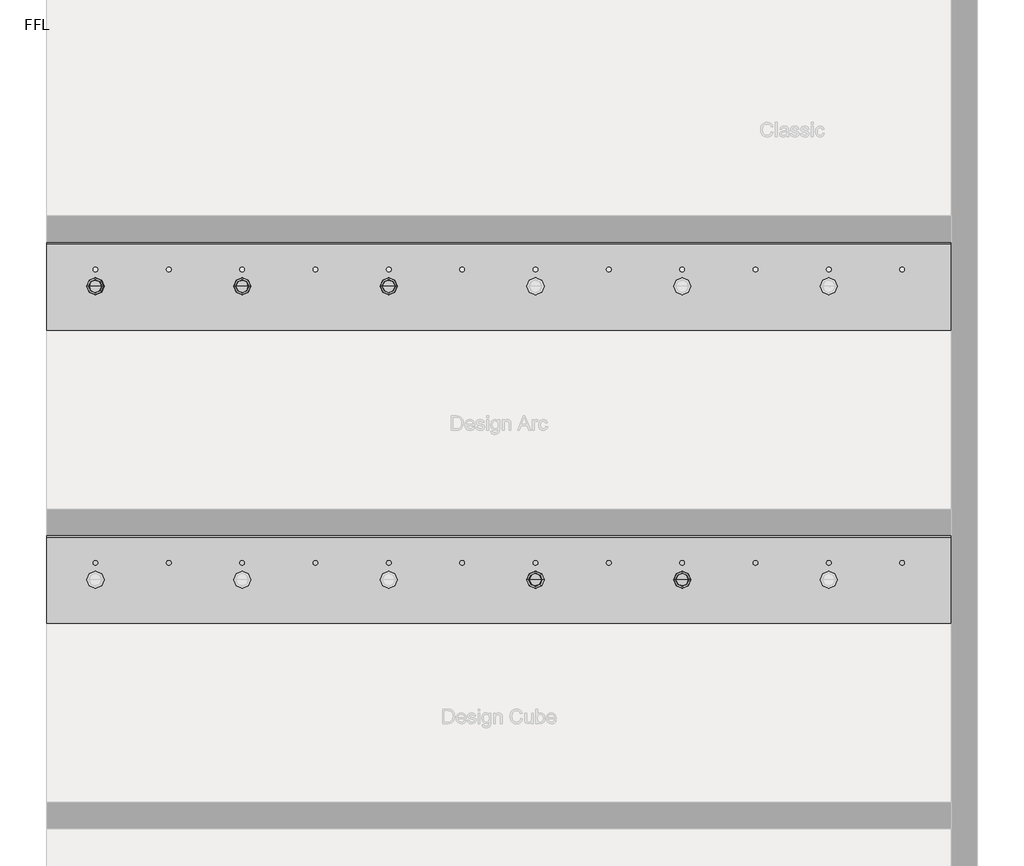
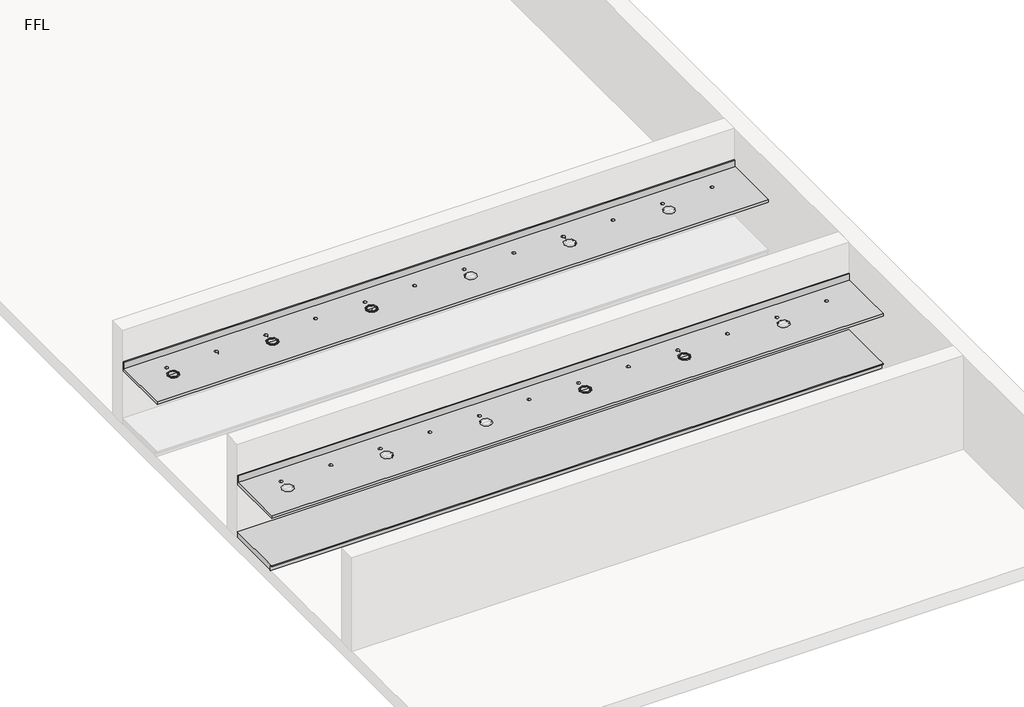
# One storey, part 2 of 5: 5 flow terminals, 3 furniture elements.
"""IFC4 building model written with IfcOpenShell, lengths in millimetres."""

from ifc_helpers import new_model, si_unit, frame, origin, place, context, project, spatial, polyline, circle_curve, transform, mapped, element, save
from ifc_brep_helpers import plane_surface, revolved_surface, advanced_brep
from components import bright_chrome_743c02cf, generic_plinth_900mm_08863006

model = new_model("IFC4")

# Units and contexts
model_context = context("Model", 3, world=origin())
ifc_project = project(units=[si_unit("LENGTHUNIT", "METRE", prefix="MILLI")], contexts=[model_context])

# Site, building, storey
site = spatial("IfcSite", under=ifc_project)
building = spatial("IfcBuilding", under=site)
storey = spatial("IfcBuildingStorey", under=building, Name="FFL", Elevation=0.0)

# Flow terminals
placement = place(None, origin())
bright_chrome_shape = bright_chrome_743c02cf(model_context)
element("IfcFlowTerminal", 1, ObjectType="z_PlumFixt_Zip Australia_Font : Bright Chrome", at=placement, inside=storey, context=model_context, shape_type="MappedRepresentation", body=[
    mapped(bright_chrome_shape, transform((-6470.7352929, 4381.2393304, 900.0), x_axis=(1.0, 0.0, 0.0), y_axis=(0.0, 1.0, 0.0), z_axis=(0.0, 0.0, 1.0))),
])
element("IfcFlowTerminal", 2, ObjectType="z_PlumFixt_Zip Australia_Font : Brushed Gold", at=placement, inside=storey, context=model_context, shape_type="MappedRepresentation", body=[
    mapped(bright_chrome_shape, transform((-4970.7352929, 4381.2393304, 900.0), x_axis=(1.0, 0.0, 0.0), y_axis=(0.0, 1.0, 0.0), z_axis=(0.0, 0.0, 1.0))),
])
element("IfcFlowTerminal", 3, ObjectType="z_PlumFixt_Zip Australia_Font : Brushed Rose Gold", at=placement, inside=storey, context=model_context, shape_type="MappedRepresentation", body=[
    mapped(bright_chrome_shape, transform((-3470.7352929, 4381.2393304, 900.0), x_axis=(1.0, 0.0, 0.0), y_axis=(0.0, 1.0, 0.0), z_axis=(0.0, 0.0, 1.0))),
])
element("IfcFlowTerminal", 4, ObjectType="z_PlumFixt_Zip Australia_Font : Gold", at=placement, inside=storey, context=model_context, shape_type="MappedRepresentation", body=[
    mapped(bright_chrome_shape, transform((-1970.7352929, 1381.2393304, 900.0), x_axis=(1.0, 0.0, 0.0), y_axis=(0.0, 1.0, 0.0), z_axis=(0.0, 0.0, 1.0))),
])
element("IfcFlowTerminal", 5, ObjectType="z_PlumFixt_Zip Australia_Font : Matte Black", at=placement, inside=storey, context=model_context, shape_type="MappedRepresentation", body=[
    mapped(bright_chrome_shape, transform((-470.7352929, 1381.2393304, 900.0), x_axis=(1.0, 0.0, 0.0), y_axis=(0.0, 1.0, 0.0), z_axis=(0.0, 0.0, 1.0))),
])

# Furniture
element("IfcFurniture", 6, ObjectType="Counter Top : 900mm Depth", at=placement, inside=storey, context=model_context, shape_type="AdvancedBrep", body=[
    advanced_brep(
    [(-6969.7352929, 3948.2393304, 900.0), (2280.2657919, 3948.2393304, 900.0), (2280.2657919, 4829.1893304, 900.0), (-6969.7352929, 4829.1893304, 900.0), (-6469.7352929, 4328.0393304, 900.0), (-6469.7352929, 4464.4393304, 900.0), (-6469.7352929, 4544.2393304, 900.0), (-6469.7352929, 4592.2393304, 900.0), (-5719.7352929, 4544.2393304, 900.0), (-5719.7352929, 4592.2393304, 900.0), (-4969.7352929, 4328.0393304, 900.0), (-4969.7352929, 4464.4393304, 900.0), (-4969.7352929, 4544.2393304, 900.0), (-4969.7352929, 4592.2393304, 900.0), (-4219.7352929, 4544.2393304, 900.0), (-4219.7352929, 4592.2393304, 900.0), (-3469.7352929, 4328.0393304, 900.0), (-3469.7352929, 4464.4393304, 900.0), (-3469.7352929, 4544.2393304, 900.0), (-3469.7352929, 4592.2393304, 900.0), (-2719.7352929, 4544.2393304, 900.0), (-2719.7352929, 4592.2393304, 900.0), (-1969.7352929, 4328.0393304, 900.0), (-1969.7352929, 4464.4393304, 900.0), (-1969.7352929, 4544.2393304, 900.0), (-1969.7352929, 4592.2393304, 900.0), (-1219.7352929, 4544.2393304, 900.0), (-1219.7352929, 4592.2393304, 900.0), (1780.2647071, 4544.2393304, 900.0), (1780.2647071, 4592.2393304, 900.0), (1030.2647071, 4328.0393304, 900.0), (1030.2647071, 4464.4393304, 900.0), (1030.2647071, 4544.2393304, 900.0), (1030.2647071, 4592.2393304, 900.0), (280.2647071, 4544.2393304, 900.0), (280.2647071, 4592.2393304, 900.0), (-469.7352929, 4328.0393304, 900.0), (-469.7352929, 4464.4393304, 900.0), (-469.7352929, 4544.2393304, 900.0), (-469.7352929, 4592.2393304, 900.0), (2280.2657919, 4848.2393304, 860.0), (2280.2657919, 3948.2393304, 860.0), (-6969.7352929, 3948.2393304, 860.0), (-6969.7352929, 4848.2393304, 860.0), (-6469.7352929, 4464.4393304, 860.0), (-6469.7352929, 4328.0393304, 860.0), (-6469.7352929, 4592.2393304, 860.0), (-6469.7352929, 4544.2393304, 860.0), (-5719.7352929, 4592.2393304, 860.0), (-5719.7352929, 4544.2393304, 860.0), (-4969.7352929, 4464.4393304, 860.0), (-4969.7352929, 4328.0393304, 860.0), (-4969.7352929, 4592.2393304, 860.0), (-4969.7352929, 4544.2393304, 860.0), (-4219.7352929, 4592.2393304, 860.0), (-4219.7352929, 4544.2393304, 860.0), (-3469.7352929, 4464.4393304, 860.0), (-3469.7352929, 4328.0393304, 860.0), (-3469.7352929, 4592.2393304, 860.0), (-3469.7352929, 4544.2393304, 860.0), (-2719.7352929, 4592.2393304, 860.0), (-2719.7352929, 4544.2393304, 860.0), (-1969.7352929, 4464.4393304, 860.0), (-1969.7352929, 4328.0393304, 860.0), (-1969.7352929, 4592.2393304, 860.0), (-1969.7352929, 4544.2393304, 860.0), (-1219.7352929, 4592.2393304, 860.0), (-1219.7352929, 4544.2393304, 860.0), (1780.2647071, 4592.2393304, 860.0), (1780.2647071, 4544.2393304, 860.0), (1030.2647071, 4464.4393304, 860.0), (1030.2647071, 4328.0393304, 860.0), (1030.2647071, 4592.2393304, 860.0), (1030.2647071, 4544.2393304, 860.0), (280.2647071, 4592.2393304, 860.0), (280.2647071, 4544.2393304, 860.0), (-469.7352929, 4464.4393304, 860.0), (-469.7352929, 4328.0393304, 860.0), (-469.7352929, 4592.2393304, 860.0), (-469.7352929, 4544.2393304, 860.0), (-6969.7352929, 4848.2393304, 1001.6), (2280.2657919, 4848.2393304, 1001.6), (-6969.7352929, 4829.1893304, 1001.6), (2280.2657919, 4829.1893304, 1001.6)],
    [
        (0, 1),
        (1, 2),
        (2, 3),
        (3, 0),
        (4, 5, circle_curve(frame((-6469.7352929, 4396.2393304, 900.0), z_axis=(0.0, 0.0, -1.0), x_axis=(0.0, -1.0, 0.0)), 68.2)),
        (5, 4, circle_curve(frame((-6469.7352929, 4396.2393304, 900.0), z_axis=(0.0, 0.0, -1.0), x_axis=(0.0, -1.0, 0.0)), 68.2)),
        (6, 7, circle_curve(frame((-6469.7352929, 4568.2393304, 900.0), z_axis=(0.0, 0.0, -1.0), x_axis=(0.0, -1.0, 0.0)), 24.0)),
        (7, 6, circle_curve(frame((-6469.7352929, 4568.2393304, 900.0), z_axis=(0.0, 0.0, -1.0), x_axis=(0.0, -1.0, 0.0)), 24.0)),
        (8, 9, circle_curve(frame((-5719.7352929, 4568.2393304, 900.0), z_axis=(0.0, 0.0, -1.0), x_axis=(0.0, -1.0, 0.0)), 24.0)),
        (9, 8, circle_curve(frame((-5719.7352929, 4568.2393304, 900.0), z_axis=(0.0, 0.0, -1.0), x_axis=(0.0, -1.0, 0.0)), 24.0)),
        (10, 11, circle_curve(frame((-4969.7352929, 4396.2393304, 900.0), z_axis=(0.0, 0.0, -1.0), x_axis=(0.0, -1.0, 0.0)), 68.2)),
        (11, 10, circle_curve(frame((-4969.7352929, 4396.2393304, 900.0), z_axis=(0.0, 0.0, -1.0), x_axis=(0.0, -1.0, 0.0)), 68.2)),
        (12, 13, circle_curve(frame((-4969.7352929, 4568.2393304, 900.0), z_axis=(0.0, 0.0, -1.0), x_axis=(0.0, -1.0, 0.0)), 24.0)),
        (13, 12, circle_curve(frame((-4969.7352929, 4568.2393304, 900.0), z_axis=(0.0, 0.0, -1.0), x_axis=(0.0, -1.0, 0.0)), 24.0)),
        (14, 15, circle_curve(frame((-4219.7352929, 4568.2393304, 900.0), z_axis=(0.0, 0.0, -1.0), x_axis=(0.0, -1.0, 0.0)), 24.0)),
        (15, 14, circle_curve(frame((-4219.7352929, 4568.2393304, 900.0), z_axis=(0.0, 0.0, -1.0), x_axis=(0.0, -1.0, 0.0)), 24.0)),
        (16, 17, circle_curve(frame((-3469.7352929, 4396.2393304, 900.0), z_axis=(0.0, 0.0, -1.0), x_axis=(0.0, -1.0, 0.0)), 68.2)),
        (17, 16, circle_curve(frame((-3469.7352929, 4396.2393304, 900.0), z_axis=(0.0, 0.0, -1.0), x_axis=(0.0, -1.0, 0.0)), 68.2)),
        (18, 19, circle_curve(frame((-3469.7352929, 4568.2393304, 900.0), z_axis=(0.0, 0.0, -1.0), x_axis=(0.0, -1.0, 0.0)), 24.0)),
        (19, 18, circle_curve(frame((-3469.7352929, 4568.2393304, 900.0), z_axis=(0.0, 0.0, -1.0), x_axis=(0.0, -1.0, 0.0)), 24.0)),
        (20, 21, circle_curve(frame((-2719.7352929, 4568.2393304, 900.0), z_axis=(0.0, 0.0, -1.0), x_axis=(0.0, -1.0, 0.0)), 24.0)),
        (21, 20, circle_curve(frame((-2719.7352929, 4568.2393304, 900.0), z_axis=(0.0, 0.0, -1.0), x_axis=(0.0, -1.0, 0.0)), 24.0)),
        (22, 23, circle_curve(frame((-1969.7352929, 4396.2393304, 900.0), z_axis=(0.0, 0.0, -1.0), x_axis=(0.0, -1.0, 0.0)), 68.2)),
        (23, 22, circle_curve(frame((-1969.7352929, 4396.2393304, 900.0), z_axis=(0.0, 0.0, -1.0), x_axis=(0.0, -1.0, 0.0)), 68.2)),
        (24, 25, circle_curve(frame((-1969.7352929, 4568.2393304, 900.0), z_axis=(0.0, 0.0, -1.0), x_axis=(0.0, -1.0, 0.0)), 24.0)),
        (25, 24, circle_curve(frame((-1969.7352929, 4568.2393304, 900.0), z_axis=(0.0, 0.0, -1.0), x_axis=(0.0, -1.0, 0.0)), 24.0)),
        (26, 27, circle_curve(frame((-1219.7352929, 4568.2393304, 900.0), z_axis=(0.0, 0.0, -1.0), x_axis=(0.0, -1.0, 0.0)), 24.0)),
        (27, 26, circle_curve(frame((-1219.7352929, 4568.2393304, 900.0), z_axis=(0.0, 0.0, -1.0), x_axis=(0.0, -1.0, 0.0)), 24.0)),
        (28, 29, circle_curve(frame((1780.2647071, 4568.2393304, 900.0), z_axis=(0.0, 0.0, -1.0), x_axis=(0.0, -1.0, 0.0)), 24.0)),
        (29, 28, circle_curve(frame((1780.2647071, 4568.2393304, 900.0), z_axis=(0.0, 0.0, -1.0), x_axis=(0.0, -1.0, 0.0)), 24.0)),
        (30, 31, circle_curve(frame((1030.2647071, 4396.2393304, 900.0), z_axis=(0.0, 0.0, -1.0), x_axis=(0.0, -1.0, 0.0)), 68.2)),
        (31, 30, circle_curve(frame((1030.2647071, 4396.2393304, 900.0), z_axis=(0.0, 0.0, -1.0), x_axis=(0.0, -1.0, 0.0)), 68.2)),
        (32, 33, circle_curve(frame((1030.2647071, 4568.2393304, 900.0), z_axis=(0.0, 0.0, -1.0), x_axis=(0.0, -1.0, 0.0)), 24.0)),
        (33, 32, circle_curve(frame((1030.2647071, 4568.2393304, 900.0), z_axis=(0.0, 0.0, -1.0), x_axis=(0.0, -1.0, 0.0)), 24.0)),
        (34, 35, circle_curve(frame((280.2647071, 4568.2393304, 900.0), z_axis=(0.0, 0.0, -1.0), x_axis=(0.0, -1.0, 0.0)), 24.0)),
        (35, 34, circle_curve(frame((280.2647071, 4568.2393304, 900.0), z_axis=(0.0, 0.0, -1.0), x_axis=(0.0, -1.0, 0.0)), 24.0)),
        (36, 37, circle_curve(frame((-469.7352929, 4396.2393304, 900.0), z_axis=(0.0, 0.0, -1.0), x_axis=(0.0, -1.0, 0.0)), 68.2)),
        (37, 36, circle_curve(frame((-469.7352929, 4396.2393304, 900.0), z_axis=(0.0, 0.0, -1.0), x_axis=(0.0, -1.0, 0.0)), 68.2)),
        (38, 39, circle_curve(frame((-469.7352929, 4568.2393304, 900.0), z_axis=(0.0, 0.0, -1.0), x_axis=(0.0, -1.0, 0.0)), 24.0)),
        (39, 38, circle_curve(frame((-469.7352929, 4568.2393304, 900.0), z_axis=(0.0, 0.0, -1.0), x_axis=(0.0, -1.0, 0.0)), 24.0)),
        (40, 41),
        (41, 42),
        (42, 43),
        (43, 40),
        (44, 45, circle_curve(frame((-6469.7352929, 4396.2393304, 860.0), z_axis=(0.0, 0.0, 1.0), x_axis=(0.0, -1.0, 0.0)), 68.2)),
        (45, 44, circle_curve(frame((-6469.7352929, 4396.2393304, 860.0), z_axis=(0.0, 0.0, 1.0), x_axis=(0.0, -1.0, 0.0)), 68.2)),
        (46, 47, circle_curve(frame((-6469.7352929, 4568.2393304, 860.0), z_axis=(0.0, 0.0, 1.0), x_axis=(0.0, -1.0, 0.0)), 24.0)),
        (47, 46, circle_curve(frame((-6469.7352929, 4568.2393304, 860.0), z_axis=(0.0, 0.0, 1.0), x_axis=(0.0, -1.0, 0.0)), 24.0)),
        (48, 49, circle_curve(frame((-5719.7352929, 4568.2393304, 860.0), z_axis=(0.0, 0.0, 1.0), x_axis=(0.0, -1.0, 0.0)), 24.0)),
        (49, 48, circle_curve(frame((-5719.7352929, 4568.2393304, 860.0), z_axis=(0.0, 0.0, 1.0), x_axis=(0.0, -1.0, 0.0)), 24.0)),
        (50, 51, circle_curve(frame((-4969.7352929, 4396.2393304, 860.0), z_axis=(0.0, 0.0, 1.0), x_axis=(0.0, -1.0, 0.0)), 68.2)),
        (51, 50, circle_curve(frame((-4969.7352929, 4396.2393304, 860.0), z_axis=(0.0, 0.0, 1.0), x_axis=(0.0, -1.0, 0.0)), 68.2)),
        (52, 53, circle_curve(frame((-4969.7352929, 4568.2393304, 860.0), z_axis=(0.0, 0.0, 1.0), x_axis=(0.0, -1.0, 0.0)), 24.0)),
        (53, 52, circle_curve(frame((-4969.7352929, 4568.2393304, 860.0), z_axis=(0.0, 0.0, 1.0), x_axis=(0.0, -1.0, 0.0)), 24.0)),
        (54, 55, circle_curve(frame((-4219.7352929, 4568.2393304, 860.0), z_axis=(0.0, 0.0, 1.0), x_axis=(0.0, -1.0, 0.0)), 24.0)),
        (55, 54, circle_curve(frame((-4219.7352929, 4568.2393304, 860.0), z_axis=(0.0, 0.0, 1.0), x_axis=(0.0, -1.0, 0.0)), 24.0)),
        (56, 57, circle_curve(frame((-3469.7352929, 4396.2393304, 860.0), z_axis=(0.0, 0.0, 1.0), x_axis=(0.0, -1.0, 0.0)), 68.2)),
        (57, 56, circle_curve(frame((-3469.7352929, 4396.2393304, 860.0), z_axis=(0.0, 0.0, 1.0), x_axis=(0.0, -1.0, 0.0)), 68.2)),
        (58, 59, circle_curve(frame((-3469.7352929, 4568.2393304, 860.0), z_axis=(0.0, 0.0, 1.0), x_axis=(0.0, -1.0, 0.0)), 24.0)),
        (59, 58, circle_curve(frame((-3469.7352929, 4568.2393304, 860.0), z_axis=(0.0, 0.0, 1.0), x_axis=(0.0, -1.0, 0.0)), 24.0)),
        (60, 61, circle_curve(frame((-2719.7352929, 4568.2393304, 860.0), z_axis=(0.0, 0.0, 1.0), x_axis=(0.0, -1.0, 0.0)), 24.0)),
        (61, 60, circle_curve(frame((-2719.7352929, 4568.2393304, 860.0), z_axis=(0.0, 0.0, 1.0), x_axis=(0.0, -1.0, 0.0)), 24.0)),
        (62, 63, circle_curve(frame((-1969.7352929, 4396.2393304, 860.0), z_axis=(0.0, 0.0, 1.0), x_axis=(0.0, -1.0, 0.0)), 68.2)),
        (63, 62, circle_curve(frame((-1969.7352929, 4396.2393304, 860.0), z_axis=(0.0, 0.0, 1.0), x_axis=(0.0, -1.0, 0.0)), 68.2)),
        (64, 65, circle_curve(frame((-1969.7352929, 4568.2393304, 860.0), z_axis=(0.0, 0.0, 1.0), x_axis=(0.0, -1.0, 0.0)), 24.0)),
        (65, 64, circle_curve(frame((-1969.7352929, 4568.2393304, 860.0), z_axis=(0.0, 0.0, 1.0), x_axis=(0.0, -1.0, 0.0)), 24.0)),
        (66, 67, circle_curve(frame((-1219.7352929, 4568.2393304, 860.0), z_axis=(0.0, 0.0, 1.0), x_axis=(0.0, -1.0, 0.0)), 24.0)),
        (67, 66, circle_curve(frame((-1219.7352929, 4568.2393304, 860.0), z_axis=(0.0, 0.0, 1.0), x_axis=(0.0, -1.0, 0.0)), 24.0)),
        (68, 69, circle_curve(frame((1780.2647071, 4568.2393304, 860.0), z_axis=(0.0, 0.0, 1.0), x_axis=(0.0, -1.0, 0.0)), 24.0)),
        (69, 68, circle_curve(frame((1780.2647071, 4568.2393304, 860.0), z_axis=(0.0, 0.0, 1.0), x_axis=(0.0, -1.0, 0.0)), 24.0)),
        (70, 71, circle_curve(frame((1030.2647071, 4396.2393304, 860.0), z_axis=(0.0, 0.0, 1.0), x_axis=(0.0, -1.0, 0.0)), 68.2)),
        (71, 70, circle_curve(frame((1030.2647071, 4396.2393304, 860.0), z_axis=(0.0, 0.0, 1.0), x_axis=(0.0, -1.0, 0.0)), 68.2)),
        (72, 73, circle_curve(frame((1030.2647071, 4568.2393304, 860.0), z_axis=(0.0, 0.0, 1.0), x_axis=(0.0, -1.0, 0.0)), 24.0)),
        (73, 72, circle_curve(frame((1030.2647071, 4568.2393304, 860.0), z_axis=(0.0, 0.0, 1.0), x_axis=(0.0, -1.0, 0.0)), 24.0)),
        (74, 75, circle_curve(frame((280.2647071, 4568.2393304, 860.0), z_axis=(0.0, 0.0, 1.0), x_axis=(0.0, -1.0, 0.0)), 24.0)),
        (75, 74, circle_curve(frame((280.2647071, 4568.2393304, 860.0), z_axis=(0.0, 0.0, 1.0), x_axis=(0.0, -1.0, 0.0)), 24.0)),
        (76, 77, circle_curve(frame((-469.7352929, 4396.2393304, 860.0), z_axis=(0.0, 0.0, 1.0), x_axis=(0.0, -1.0, 0.0)), 68.2)),
        (77, 76, circle_curve(frame((-469.7352929, 4396.2393304, 860.0), z_axis=(0.0, 0.0, 1.0), x_axis=(0.0, -1.0, 0.0)), 68.2)),
        (78, 79, circle_curve(frame((-469.7352929, 4568.2393304, 860.0), z_axis=(0.0, 0.0, 1.0), x_axis=(0.0, -1.0, 0.0)), 24.0)),
        (79, 78, circle_curve(frame((-469.7352929, 4568.2393304, 860.0), z_axis=(0.0, 0.0, 1.0), x_axis=(0.0, -1.0, 0.0)), 24.0)),
        (43, 80),
        (80, 81),
        (81, 40),
        (3, 82),
        (82, 80),
        (42, 0),
        (41, 1),
        (81, 83),
        (83, 2),
        (82, 83),
        (44, 5),
        (4, 45),
        (46, 7),
        (6, 47),
        (48, 9),
        (8, 49),
        (50, 11),
        (10, 51),
        (52, 13),
        (12, 53),
        (54, 15),
        (14, 55),
        (56, 17),
        (16, 57),
        (58, 19),
        (18, 59),
        (60, 21),
        (20, 61),
        (62, 23),
        (22, 63),
        (64, 25),
        (24, 65),
        (66, 27),
        (26, 67),
        (68, 29),
        (28, 69),
        (70, 31),
        (30, 71),
        (72, 33),
        (32, 73),
        (74, 35),
        (34, 75),
        (76, 37),
        (36, 77),
        (78, 39),
        (38, 79),
    ],
    [
        plane_surface(frame((-6969.7352929, 4848.2393304, 900.0), z_axis=(0.0, 0.0, 1.0), x_axis=(-1.0, 0.0, 0.0))),
        plane_surface(frame((-6969.7352929, 4848.2393304, 860.0), z_axis=(0.0, 0.0, -1.0), x_axis=(1.0, 0.0, 0.0))),
        plane_surface(frame((2280.2657919, 4848.2393304, 900.0), z_axis=(0.0, 1.0, 0.0), x_axis=(0.0, 0.0, -1.0))),
        plane_surface(frame((-6969.7352929, 4848.2393304, 900.0), z_axis=(-1.0, 0.0, 0.0), x_axis=(0.0, 0.0, -1.0))),
        plane_surface(frame((-6969.7352929, 3948.2393304, 900.0), z_axis=(0.0, -1.0, 0.0), x_axis=(0.0, 0.0, -1.0))),
        plane_surface(frame((2280.2657919, 3948.2393304, 900.0), z_axis=(1.0, 0.0, 0.0), x_axis=(0.0, 0.0, -1.0))),
        plane_surface(frame((-6969.7352929, 4848.2393304, 1001.6), z_axis=(0.0, 0.0, 1.0), x_axis=(0.0, -1.0, 0.0))),
        plane_surface(frame((-6969.7352929, 4829.1893304, 1001.6), z_axis=(0.0, -1.0, 0.0), x_axis=(0.0, 0.0, -1.0))),
        revolved_surface(polyline([(-6469.7352929, 4328.0393304, 900.0), (-6469.7352929, 4328.0393304, 860.0)]), (-6469.7352929, 4396.2393304, 700.0), (0.0, 0.0, 1.0)),
        revolved_surface(polyline([(-6469.7352929, 4544.2393304, 900.0), (-6469.7352929, 4544.2393304, 860.0)]), (-6469.7352929, 4568.2393304, 700.0), (0.0, 0.0, 1.0)),
        revolved_surface(polyline([(-5719.7352929, 4544.2393304, 900.0), (-5719.7352929, 4544.2393304, 860.0)]), (-5719.7352929, 4568.2393304, 700.0), (0.0, 0.0, 1.0)),
        revolved_surface(polyline([(-4969.7352929, 4328.0393304, 900.0), (-4969.7352929, 4328.0393304, 860.0)]), (-4969.7352929, 4396.2393304, 700.0), (0.0, 0.0, 1.0)),
        revolved_surface(polyline([(-4969.7352929, 4544.2393304, 900.0), (-4969.7352929, 4544.2393304, 860.0)]), (-4969.7352929, 4568.2393304, 700.0), (0.0, 0.0, 1.0)),
        revolved_surface(polyline([(-4219.7352929, 4544.2393304, 900.0), (-4219.7352929, 4544.2393304, 860.0)]), (-4219.7352929, 4568.2393304, 700.0), (0.0, 0.0, 1.0)),
        revolved_surface(polyline([(-3469.7352929, 4328.0393304, 900.0), (-3469.7352929, 4328.0393304, 860.0)]), (-3469.7352929, 4396.2393304, 700.0), (0.0, 0.0, 1.0)),
        revolved_surface(polyline([(-3469.7352929, 4544.2393304, 900.0), (-3469.7352929, 4544.2393304, 860.0)]), (-3469.7352929, 4568.2393304, 700.0), (0.0, 0.0, 1.0)),
        revolved_surface(polyline([(-2719.7352929, 4544.2393304, 900.0), (-2719.7352929, 4544.2393304, 860.0)]), (-2719.7352929, 4568.2393304, 700.0), (0.0, 0.0, 1.0)),
        revolved_surface(polyline([(-1969.7352929, 4328.0393304, 900.0), (-1969.7352929, 4328.0393304, 860.0)]), (-1969.7352929, 4396.2393304, 700.0), (0.0, 0.0, 1.0)),
        revolved_surface(polyline([(-1969.7352929, 4544.2393304, 900.0), (-1969.7352929, 4544.2393304, 860.0)]), (-1969.7352929, 4568.2393304, 700.0), (0.0, 0.0, 1.0)),
        revolved_surface(polyline([(-1219.7352929, 4544.2393304, 900.0), (-1219.7352929, 4544.2393304, 860.0)]), (-1219.7352929, 4568.2393304, 700.0), (0.0, 0.0, 1.0)),
        revolved_surface(polyline([(1780.2647071, 4544.2393304, 900.0), (1780.2647071, 4544.2393304, 860.0)]), (1780.2647071, 4568.2393304, 700.0), (0.0, 0.0, 1.0)),
        revolved_surface(polyline([(1030.2647071, 4328.0393304, 900.0), (1030.2647071, 4328.0393304, 860.0)]), (1030.2647071, 4396.2393304, 700.0), (0.0, 0.0, 1.0)),
        revolved_surface(polyline([(1030.2647071, 4544.2393304, 900.0), (1030.2647071, 4544.2393304, 860.0)]), (1030.2647071, 4568.2393304, 700.0), (0.0, 0.0, 1.0)),
        revolved_surface(polyline([(280.2647071, 4544.2393304, 900.0), (280.2647071, 4544.2393304, 860.0)]), (280.2647071, 4568.2393304, 700.0), (0.0, 0.0, 1.0)),
        revolved_surface(polyline([(-469.7352929, 4328.0393304, 900.0), (-469.7352929, 4328.0393304, 860.0)]), (-469.7352929, 4396.2393304, 700.0), (0.0, 0.0, 1.0)),
        revolved_surface(polyline([(-469.7352929, 4544.2393304, 900.0), (-469.7352929, 4544.2393304, 860.0)]), (-469.7352929, 4568.2393304, 700.0), (0.0, 0.0, 1.0)),
    ],
    [
        (0, [[1, 2, 3, 4], [5, 6], [7, 8], [9, 10], [11, 12], [13, 14], [15, 16], [17, 18], [19, 20], [21, 22], [23, 24], [25, 26], [27, 28], [29, 30], [31, 32], [33, 34], [35, 36], [37, 38], [39, 40]]),
        (1, [[41, 42, 43, 44], [45, 46], [47, 48], [49, 50], [51, 52], [53, 54], [55, 56], [57, 58], [59, 60], [61, 62], [63, 64], [65, 66], [67, 68], [69, 70], [71, 72], [73, 74], [75, 76], [77, 78], [79, 80]]),
        (2, [[-44, 81, 82, 83]]),
        (3, [[-4, 84, 85, -81, -43, 86]]),
        (4, [[-1, -86, -42, 87]]),
        (5, [[-2, -87, -41, -83, 88, 89]]),
        (6, [[-82, -85, 90, -88]]),
        (7, [[-3, -89, -90, -84]]),
        (8, [[91, -5, 92, -45]]),
        (8, [[-91, -46, -92, -6]]),
        (9, [[93, -7, 94, -47]]),
        (9, [[-93, -48, -94, -8]]),
        (10, [[95, -9, 96, -49]]),
        (10, [[-95, -50, -96, -10]]),
        (11, [[97, -11, 98, -51]]),
        (11, [[-97, -52, -98, -12]]),
        (12, [[99, -13, 100, -53]]),
        (12, [[-99, -54, -100, -14]]),
        (13, [[101, -15, 102, -55]]),
        (13, [[-101, -56, -102, -16]]),
        (14, [[103, -17, 104, -57]]),
        (14, [[-103, -58, -104, -18]]),
        (15, [[105, -19, 106, -59]]),
        (15, [[-105, -60, -106, -20]]),
        (16, [[107, -21, 108, -61]]),
        (16, [[-107, -62, -108, -22]]),
        (17, [[109, -23, 110, -63]]),
        (17, [[-109, -64, -110, -24]]),
        (18, [[111, -25, 112, -65]]),
        (18, [[-111, -66, -112, -26]]),
        (19, [[113, -27, 114, -67]]),
        (19, [[-113, -68, -114, -28]]),
        (20, [[115, -29, 116, -69]]),
        (20, [[-115, -70, -116, -30]]),
        (21, [[117, -31, 118, -71]]),
        (21, [[-117, -72, -118, -32]]),
        (22, [[119, -33, 120, -73]]),
        (22, [[-119, -74, -120, -34]]),
        (23, [[121, -35, 122, -75]]),
        (23, [[-121, -76, -122, -36]]),
        (24, [[123, -37, 124, -77]]),
        (24, [[-123, -78, -124, -38]]),
        (25, [[125, -39, 126, -79]]),
        (25, [[-125, -80, -126, -40]]),
    ],
),
])
element("IfcFurniture", 7, ObjectType="Counter Top : 900mm Depth", at=placement, inside=storey, context=model_context, shape_type="AdvancedBrep", body=[
    advanced_brep(
    [(-6969.7352929, 948.2393304, 900.0), (2280.2657919, 948.2393304, 900.0), (2280.2657919, 1829.1893304, 900.0), (-6969.7352929, 1829.1893304, 900.0), (-6469.7352929, 1328.0393304, 900.0), (-6469.7352929, 1464.4393304, 900.0), (-6469.7352929, 1544.2393304, 900.0), (-6469.7352929, 1592.2393304, 900.0), (-5719.7352929, 1544.2393304, 900.0), (-5719.7352929, 1592.2393304, 900.0), (-4969.7352929, 1328.0393304, 900.0), (-4969.7352929, 1464.4393304, 900.0), (-4969.7352929, 1544.2393304, 900.0), (-4969.7352929, 1592.2393304, 900.0), (-4219.7352929, 1544.2393304, 900.0), (-4219.7352929, 1592.2393304, 900.0), (-3469.7352929, 1328.0393304, 900.0), (-3469.7352929, 1464.4393304, 900.0), (-3469.7352929, 1544.2393304, 900.0), (-3469.7352929, 1592.2393304, 900.0), (-2719.7352929, 1544.2393304, 900.0), (-2719.7352929, 1592.2393304, 900.0), (-1969.7352929, 1328.0393304, 900.0), (-1969.7352929, 1464.4393304, 900.0), (-1969.7352929, 1544.2393304, 900.0), (-1969.7352929, 1592.2393304, 900.0), (-1219.7352929, 1544.2393304, 900.0), (-1219.7352929, 1592.2393304, 900.0), (-469.7352929, 1328.0393304, 900.0), (-469.7352929, 1464.4393304, 900.0), (-469.7352929, 1544.2393304, 900.0), (-469.7352929, 1592.2393304, 900.0), (280.2647071, 1544.2393304, 900.0), (280.2647071, 1592.2393304, 900.0), (1030.2647071, 1328.0393304, 900.0), (1030.2647071, 1464.4393304, 900.0), (1030.2647071, 1544.2393304, 900.0), (1030.2647071, 1592.2393304, 900.0), (1780.2647071, 1544.2393304, 900.0), (1780.2647071, 1592.2393304, 900.0), (2280.2657919, 1848.2393304, 860.0), (2280.2657919, 948.2393304, 860.0), (-6969.7352929, 948.2393304, 860.0), (-6969.7352929, 1848.2393304, 860.0), (-6469.7352929, 1464.4393304, 860.0), (-6469.7352929, 1328.0393304, 860.0), (-6469.7352929, 1592.2393304, 860.0), (-6469.7352929, 1544.2393304, 860.0), (-5719.7352929, 1592.2393304, 860.0), (-5719.7352929, 1544.2393304, 860.0), (-4969.7352929, 1464.4393304, 860.0), (-4969.7352929, 1328.0393304, 860.0), (-4969.7352929, 1592.2393304, 860.0), (-4969.7352929, 1544.2393304, 860.0), (-4219.7352929, 1592.2393304, 860.0), (-4219.7352929, 1544.2393304, 860.0), (-3469.7352929, 1464.4393304, 860.0), (-3469.7352929, 1328.0393304, 860.0), (-3469.7352929, 1592.2393304, 860.0), (-3469.7352929, 1544.2393304, 860.0), (-2719.7352929, 1592.2393304, 860.0), (-2719.7352929, 1544.2393304, 860.0), (-1969.7352929, 1464.4393304, 860.0), (-1969.7352929, 1328.0393304, 860.0), (-1969.7352929, 1592.2393304, 860.0), (-1969.7352929, 1544.2393304, 860.0), (-1219.7352929, 1592.2393304, 860.0), (-1219.7352929, 1544.2393304, 860.0), (-469.7352929, 1464.4393304, 860.0), (-469.7352929, 1328.0393304, 860.0), (-469.7352929, 1592.2393304, 860.0), (-469.7352929, 1544.2393304, 860.0), (280.2647071, 1592.2393304, 860.0), (280.2647071, 1544.2393304, 860.0), (1030.2647071, 1464.4393304, 860.0), (1030.2647071, 1328.0393304, 860.0), (1030.2647071, 1592.2393304, 860.0), (1030.2647071, 1544.2393304, 860.0), (1780.2647071, 1592.2393304, 860.0), (1780.2647071, 1544.2393304, 860.0), (-6969.7352929, 1848.2393304, 1001.6), (2280.2657919, 1848.2393304, 1001.6), (-6969.7352929, 1829.1893304, 1001.6), (2280.2657919, 1829.1893304, 1001.6)],
    [
        (0, 1),
        (1, 2),
        (2, 3),
        (3, 0),
        (4, 5, circle_curve(frame((-6469.7352929, 1396.2393304, 900.0), z_axis=(0.0, 0.0, -1.0), x_axis=(0.0, -1.0, 0.0)), 68.2)),
        (5, 4, circle_curve(frame((-6469.7352929, 1396.2393304, 900.0), z_axis=(0.0, 0.0, -1.0), x_axis=(0.0, -1.0, 0.0)), 68.2)),
        (6, 7, circle_curve(frame((-6469.7352929, 1568.2393304, 900.0), z_axis=(0.0, 0.0, -1.0), x_axis=(0.0, -1.0, 0.0)), 24.0)),
        (7, 6, circle_curve(frame((-6469.7352929, 1568.2393304, 900.0), z_axis=(0.0, 0.0, -1.0), x_axis=(0.0, -1.0, 0.0)), 24.0)),
        (8, 9, circle_curve(frame((-5719.7352929, 1568.2393304, 900.0), z_axis=(0.0, 0.0, -1.0), x_axis=(0.0, -1.0, 0.0)), 24.0)),
        (9, 8, circle_curve(frame((-5719.7352929, 1568.2393304, 900.0), z_axis=(0.0, 0.0, -1.0), x_axis=(0.0, -1.0, 0.0)), 24.0)),
        (10, 11, circle_curve(frame((-4969.7352929, 1396.2393304, 900.0), z_axis=(0.0, 0.0, -1.0), x_axis=(0.0, -1.0, 0.0)), 68.2)),
        (11, 10, circle_curve(frame((-4969.7352929, 1396.2393304, 900.0), z_axis=(0.0, 0.0, -1.0), x_axis=(0.0, -1.0, 0.0)), 68.2)),
        (12, 13, circle_curve(frame((-4969.7352929, 1568.2393304, 900.0), z_axis=(0.0, 0.0, -1.0), x_axis=(0.0, -1.0, 0.0)), 24.0)),
        (13, 12, circle_curve(frame((-4969.7352929, 1568.2393304, 900.0), z_axis=(0.0, 0.0, -1.0), x_axis=(0.0, -1.0, 0.0)), 24.0)),
        (14, 15, circle_curve(frame((-4219.7352929, 1568.2393304, 900.0), z_axis=(0.0, 0.0, -1.0), x_axis=(0.0, -1.0, 0.0)), 24.0)),
        (15, 14, circle_curve(frame((-4219.7352929, 1568.2393304, 900.0), z_axis=(0.0, 0.0, -1.0), x_axis=(0.0, -1.0, 0.0)), 24.0)),
        (16, 17, circle_curve(frame((-3469.7352929, 1396.2393304, 900.0), z_axis=(0.0, 0.0, -1.0), x_axis=(0.0, -1.0, 0.0)), 68.2)),
        (17, 16, circle_curve(frame((-3469.7352929, 1396.2393304, 900.0), z_axis=(0.0, 0.0, -1.0), x_axis=(0.0, -1.0, 0.0)), 68.2)),
        (18, 19, circle_curve(frame((-3469.7352929, 1568.2393304, 900.0), z_axis=(0.0, 0.0, -1.0), x_axis=(0.0, -1.0, 0.0)), 24.0)),
        (19, 18, circle_curve(frame((-3469.7352929, 1568.2393304, 900.0), z_axis=(0.0, 0.0, -1.0), x_axis=(0.0, -1.0, 0.0)), 24.0)),
        (20, 21, circle_curve(frame((-2719.7352929, 1568.2393304, 900.0), z_axis=(0.0, 0.0, -1.0), x_axis=(0.0, -1.0, 0.0)), 24.0)),
        (21, 20, circle_curve(frame((-2719.7352929, 1568.2393304, 900.0), z_axis=(0.0, 0.0, -1.0), x_axis=(0.0, -1.0, 0.0)), 24.0)),
        (22, 23, circle_curve(frame((-1969.7352929, 1396.2393304, 900.0), z_axis=(0.0, 0.0, -1.0), x_axis=(0.0, -1.0, 0.0)), 68.2)),
        (23, 22, circle_curve(frame((-1969.7352929, 1396.2393304, 900.0), z_axis=(0.0, 0.0, -1.0), x_axis=(0.0, -1.0, 0.0)), 68.2)),
        (24, 25, circle_curve(frame((-1969.7352929, 1568.2393304, 900.0), z_axis=(0.0, 0.0, -1.0), x_axis=(0.0, -1.0, 0.0)), 24.0)),
        (25, 24, circle_curve(frame((-1969.7352929, 1568.2393304, 900.0), z_axis=(0.0, 0.0, -1.0), x_axis=(0.0, -1.0, 0.0)), 24.0)),
        (26, 27, circle_curve(frame((-1219.7352929, 1568.2393304, 900.0), z_axis=(0.0, 0.0, -1.0), x_axis=(0.0, -1.0, 0.0)), 24.0)),
        (27, 26, circle_curve(frame((-1219.7352929, 1568.2393304, 900.0), z_axis=(0.0, 0.0, -1.0), x_axis=(0.0, -1.0, 0.0)), 24.0)),
        (28, 29, circle_curve(frame((-469.7352929, 1396.2393304, 900.0), z_axis=(0.0, 0.0, -1.0), x_axis=(0.0, -1.0, 0.0)), 68.2)),
        (29, 28, circle_curve(frame((-469.7352929, 1396.2393304, 900.0), z_axis=(0.0, 0.0, -1.0), x_axis=(0.0, -1.0, 0.0)), 68.2)),
        (30, 31, circle_curve(frame((-469.7352929, 1568.2393304, 900.0), z_axis=(0.0, 0.0, -1.0), x_axis=(0.0, -1.0, 0.0)), 24.0)),
        (31, 30, circle_curve(frame((-469.7352929, 1568.2393304, 900.0), z_axis=(0.0, 0.0, -1.0), x_axis=(0.0, -1.0, 0.0)), 24.0)),
        (32, 33, circle_curve(frame((280.2647071, 1568.2393304, 900.0), z_axis=(0.0, 0.0, -1.0), x_axis=(0.0, -1.0, 0.0)), 24.0)),
        (33, 32, circle_curve(frame((280.2647071, 1568.2393304, 900.0), z_axis=(0.0, 0.0, -1.0), x_axis=(0.0, -1.0, 0.0)), 24.0)),
        (34, 35, circle_curve(frame((1030.2647071, 1396.2393304, 900.0), z_axis=(0.0, 0.0, -1.0), x_axis=(0.0, -1.0, 0.0)), 68.2)),
        (35, 34, circle_curve(frame((1030.2647071, 1396.2393304, 900.0), z_axis=(0.0, 0.0, -1.0), x_axis=(0.0, -1.0, 0.0)), 68.2)),
        (36, 37, circle_curve(frame((1030.2647071, 1568.2393304, 900.0), z_axis=(0.0, 0.0, -1.0), x_axis=(0.0, -1.0, 0.0)), 24.0)),
        (37, 36, circle_curve(frame((1030.2647071, 1568.2393304, 900.0), z_axis=(0.0, 0.0, -1.0), x_axis=(0.0, -1.0, 0.0)), 24.0)),
        (38, 39, circle_curve(frame((1780.2647071, 1568.2393304, 900.0), z_axis=(0.0, 0.0, -1.0), x_axis=(0.0, -1.0, 0.0)), 24.0)),
        (39, 38, circle_curve(frame((1780.2647071, 1568.2393304, 900.0), z_axis=(0.0, 0.0, -1.0), x_axis=(0.0, -1.0, 0.0)), 24.0)),
        (40, 41),
        (41, 42),
        (42, 43),
        (43, 40),
        (44, 45, circle_curve(frame((-6469.7352929, 1396.2393304, 860.0), z_axis=(0.0, 0.0, 1.0), x_axis=(0.0, -1.0, 0.0)), 68.2)),
        (45, 44, circle_curve(frame((-6469.7352929, 1396.2393304, 860.0), z_axis=(0.0, 0.0, 1.0), x_axis=(0.0, -1.0, 0.0)), 68.2)),
        (46, 47, circle_curve(frame((-6469.7352929, 1568.2393304, 860.0), z_axis=(0.0, 0.0, 1.0), x_axis=(0.0, -1.0, 0.0)), 24.0)),
        (47, 46, circle_curve(frame((-6469.7352929, 1568.2393304, 860.0), z_axis=(0.0, 0.0, 1.0), x_axis=(0.0, -1.0, 0.0)), 24.0)),
        (48, 49, circle_curve(frame((-5719.7352929, 1568.2393304, 860.0), z_axis=(0.0, 0.0, 1.0), x_axis=(0.0, -1.0, 0.0)), 24.0)),
        (49, 48, circle_curve(frame((-5719.7352929, 1568.2393304, 860.0), z_axis=(0.0, 0.0, 1.0), x_axis=(0.0, -1.0, 0.0)), 24.0)),
        (50, 51, circle_curve(frame((-4969.7352929, 1396.2393304, 860.0), z_axis=(0.0, 0.0, 1.0), x_axis=(0.0, -1.0, 0.0)), 68.2)),
        (51, 50, circle_curve(frame((-4969.7352929, 1396.2393304, 860.0), z_axis=(0.0, 0.0, 1.0), x_axis=(0.0, -1.0, 0.0)), 68.2)),
        (52, 53, circle_curve(frame((-4969.7352929, 1568.2393304, 860.0), z_axis=(0.0, 0.0, 1.0), x_axis=(0.0, -1.0, 0.0)), 24.0)),
        (53, 52, circle_curve(frame((-4969.7352929, 1568.2393304, 860.0), z_axis=(0.0, 0.0, 1.0), x_axis=(0.0, -1.0, 0.0)), 24.0)),
        (54, 55, circle_curve(frame((-4219.7352929, 1568.2393304, 860.0), z_axis=(0.0, 0.0, 1.0), x_axis=(0.0, -1.0, 0.0)), 24.0)),
        (55, 54, circle_curve(frame((-4219.7352929, 1568.2393304, 860.0), z_axis=(0.0, 0.0, 1.0), x_axis=(0.0, -1.0, 0.0)), 24.0)),
        (56, 57, circle_curve(frame((-3469.7352929, 1396.2393304, 860.0), z_axis=(0.0, 0.0, 1.0), x_axis=(0.0, -1.0, 0.0)), 68.2)),
        (57, 56, circle_curve(frame((-3469.7352929, 1396.2393304, 860.0), z_axis=(0.0, 0.0, 1.0), x_axis=(0.0, -1.0, 0.0)), 68.2)),
        (58, 59, circle_curve(frame((-3469.7352929, 1568.2393304, 860.0), z_axis=(0.0, 0.0, 1.0), x_axis=(0.0, -1.0, 0.0)), 24.0)),
        (59, 58, circle_curve(frame((-3469.7352929, 1568.2393304, 860.0), z_axis=(0.0, 0.0, 1.0), x_axis=(0.0, -1.0, 0.0)), 24.0)),
        (60, 61, circle_curve(frame((-2719.7352929, 1568.2393304, 860.0), z_axis=(0.0, 0.0, 1.0), x_axis=(0.0, -1.0, 0.0)), 24.0)),
        (61, 60, circle_curve(frame((-2719.7352929, 1568.2393304, 860.0), z_axis=(0.0, 0.0, 1.0), x_axis=(0.0, -1.0, 0.0)), 24.0)),
        (62, 63, circle_curve(frame((-1969.7352929, 1396.2393304, 860.0), z_axis=(0.0, 0.0, 1.0), x_axis=(0.0, -1.0, 0.0)), 68.2)),
        (63, 62, circle_curve(frame((-1969.7352929, 1396.2393304, 860.0), z_axis=(0.0, 0.0, 1.0), x_axis=(0.0, -1.0, 0.0)), 68.2)),
        (64, 65, circle_curve(frame((-1969.7352929, 1568.2393304, 860.0), z_axis=(0.0, 0.0, 1.0), x_axis=(0.0, -1.0, 0.0)), 24.0)),
        (65, 64, circle_curve(frame((-1969.7352929, 1568.2393304, 860.0), z_axis=(0.0, 0.0, 1.0), x_axis=(0.0, -1.0, 0.0)), 24.0)),
        (66, 67, circle_curve(frame((-1219.7352929, 1568.2393304, 860.0), z_axis=(0.0, 0.0, 1.0), x_axis=(0.0, -1.0, 0.0)), 24.0)),
        (67, 66, circle_curve(frame((-1219.7352929, 1568.2393304, 860.0), z_axis=(0.0, 0.0, 1.0), x_axis=(0.0, -1.0, 0.0)), 24.0)),
        (68, 69, circle_curve(frame((-469.7352929, 1396.2393304, 860.0), z_axis=(0.0, 0.0, 1.0), x_axis=(0.0, -1.0, 0.0)), 68.2)),
        (69, 68, circle_curve(frame((-469.7352929, 1396.2393304, 860.0), z_axis=(0.0, 0.0, 1.0), x_axis=(0.0, -1.0, 0.0)), 68.2)),
        (70, 71, circle_curve(frame((-469.7352929, 1568.2393304, 860.0), z_axis=(0.0, 0.0, 1.0), x_axis=(0.0, -1.0, 0.0)), 24.0)),
        (71, 70, circle_curve(frame((-469.7352929, 1568.2393304, 860.0), z_axis=(0.0, 0.0, 1.0), x_axis=(0.0, -1.0, 0.0)), 24.0)),
        (72, 73, circle_curve(frame((280.2647071, 1568.2393304, 860.0), z_axis=(0.0, 0.0, 1.0), x_axis=(0.0, -1.0, 0.0)), 24.0)),
        (73, 72, circle_curve(frame((280.2647071, 1568.2393304, 860.0), z_axis=(0.0, 0.0, 1.0), x_axis=(0.0, -1.0, 0.0)), 24.0)),
        (74, 75, circle_curve(frame((1030.2647071, 1396.2393304, 860.0), z_axis=(0.0, 0.0, 1.0), x_axis=(0.0, -1.0, 0.0)), 68.2)),
        (75, 74, circle_curve(frame((1030.2647071, 1396.2393304, 860.0), z_axis=(0.0, 0.0, 1.0), x_axis=(0.0, -1.0, 0.0)), 68.2)),
        (76, 77, circle_curve(frame((1030.2647071, 1568.2393304, 860.0), z_axis=(0.0, 0.0, 1.0), x_axis=(0.0, -1.0, 0.0)), 24.0)),
        (77, 76, circle_curve(frame((1030.2647071, 1568.2393304, 860.0), z_axis=(0.0, 0.0, 1.0), x_axis=(0.0, -1.0, 0.0)), 24.0)),
        (78, 79, circle_curve(frame((1780.2647071, 1568.2393304, 860.0), z_axis=(0.0, 0.0, 1.0), x_axis=(0.0, -1.0, 0.0)), 24.0)),
        (79, 78, circle_curve(frame((1780.2647071, 1568.2393304, 860.0), z_axis=(0.0, 0.0, 1.0), x_axis=(0.0, -1.0, 0.0)), 24.0)),
        (43, 80),
        (80, 81),
        (81, 40),
        (3, 82),
        (82, 80),
        (42, 0),
        (41, 1),
        (81, 83),
        (83, 2),
        (82, 83),
        (44, 5),
        (4, 45),
        (46, 7),
        (6, 47),
        (48, 9),
        (8, 49),
        (50, 11),
        (10, 51),
        (52, 13),
        (12, 53),
        (54, 15),
        (14, 55),
        (56, 17),
        (16, 57),
        (58, 19),
        (18, 59),
        (60, 21),
        (20, 61),
        (62, 23),
        (22, 63),
        (64, 25),
        (24, 65),
        (66, 27),
        (26, 67),
        (68, 29),
        (28, 69),
        (70, 31),
        (30, 71),
        (72, 33),
        (32, 73),
        (74, 35),
        (34, 75),
        (76, 37),
        (36, 77),
        (78, 39),
        (38, 79),
    ],
    [
        plane_surface(frame((-6969.7352929, 1848.2393304, 900.0), z_axis=(0.0, 0.0, 1.0), x_axis=(-1.0, 0.0, 0.0))),
        plane_surface(frame((-6969.7352929, 1848.2393304, 860.0), z_axis=(0.0, 0.0, -1.0), x_axis=(1.0, 0.0, 0.0))),
        plane_surface(frame((2280.2657919, 1848.2393304, 900.0), z_axis=(0.0, 1.0, 0.0), x_axis=(0.0, 0.0, -1.0))),
        plane_surface(frame((-6969.7352929, 1848.2393304, 900.0), z_axis=(-1.0, 0.0, 0.0), x_axis=(0.0, 0.0, -1.0))),
        plane_surface(frame((-6969.7352929, 948.2393304, 900.0), z_axis=(0.0, -1.0, 0.0), x_axis=(0.0, 0.0, -1.0))),
        plane_surface(frame((2280.2657919, 948.2393304, 900.0), z_axis=(1.0, 0.0, 0.0), x_axis=(0.0, 0.0, -1.0))),
        plane_surface(frame((-6969.7352929, 1848.2393304, 1001.6), z_axis=(0.0, 0.0, 1.0), x_axis=(0.0, -1.0, 0.0))),
        plane_surface(frame((-6969.7352929, 1829.1893304, 1001.6), z_axis=(0.0, -1.0, 0.0), x_axis=(0.0, 0.0, -1.0))),
        revolved_surface(polyline([(-6469.7352929, 1328.0393304, 900.0), (-6469.7352929, 1328.0393304, 860.0)]), (-6469.7352929, 1396.2393304, 700.0), (0.0, 0.0, 1.0)),
        revolved_surface(polyline([(-6469.7352929, 1544.2393304, 900.0), (-6469.7352929, 1544.2393304, 860.0)]), (-6469.7352929, 1568.2393304, 700.0), (0.0, 0.0, 1.0)),
        revolved_surface(polyline([(-5719.7352929, 1544.2393304, 900.0), (-5719.7352929, 1544.2393304, 860.0)]), (-5719.7352929, 1568.2393304, 700.0), (0.0, 0.0, 1.0)),
        revolved_surface(polyline([(-4969.7352929, 1328.0393304, 900.0), (-4969.7352929, 1328.0393304, 860.0)]), (-4969.7352929, 1396.2393304, 700.0), (0.0, 0.0, 1.0)),
        revolved_surface(polyline([(-4969.7352929, 1544.2393304, 900.0), (-4969.7352929, 1544.2393304, 860.0)]), (-4969.7352929, 1568.2393304, 700.0), (0.0, 0.0, 1.0)),
        revolved_surface(polyline([(-4219.7352929, 1544.2393304, 900.0), (-4219.7352929, 1544.2393304, 860.0)]), (-4219.7352929, 1568.2393304, 700.0), (0.0, 0.0, 1.0)),
        revolved_surface(polyline([(-3469.7352929, 1328.0393304, 900.0), (-3469.7352929, 1328.0393304, 860.0)]), (-3469.7352929, 1396.2393304, 700.0), (0.0, 0.0, 1.0)),
        revolved_surface(polyline([(-3469.7352929, 1544.2393304, 900.0), (-3469.7352929, 1544.2393304, 860.0)]), (-3469.7352929, 1568.2393304, 700.0), (0.0, 0.0, 1.0)),
        revolved_surface(polyline([(-2719.7352929, 1544.2393304, 900.0), (-2719.7352929, 1544.2393304, 860.0)]), (-2719.7352929, 1568.2393304, 700.0), (0.0, 0.0, 1.0)),
        revolved_surface(polyline([(-1969.7352929, 1328.0393304, 900.0), (-1969.7352929, 1328.0393304, 860.0)]), (-1969.7352929, 1396.2393304, 700.0), (0.0, 0.0, 1.0)),
        revolved_surface(polyline([(-1969.7352929, 1544.2393304, 900.0), (-1969.7352929, 1544.2393304, 860.0)]), (-1969.7352929, 1568.2393304, 700.0), (0.0, 0.0, 1.0)),
        revolved_surface(polyline([(-1219.7352929, 1544.2393304, 900.0), (-1219.7352929, 1544.2393304, 860.0)]), (-1219.7352929, 1568.2393304, 700.0), (0.0, 0.0, 1.0)),
        revolved_surface(polyline([(-469.7352929, 1328.0393304, 900.0), (-469.7352929, 1328.0393304, 860.0)]), (-469.7352929, 1396.2393304, 700.0), (0.0, 0.0, 1.0)),
        revolved_surface(polyline([(-469.7352929, 1544.2393304, 900.0), (-469.7352929, 1544.2393304, 860.0)]), (-469.7352929, 1568.2393304, 700.0), (0.0, 0.0, 1.0)),
        revolved_surface(polyline([(280.2647071, 1544.2393304, 900.0), (280.2647071, 1544.2393304, 860.0)]), (280.2647071, 1568.2393304, 700.0), (0.0, 0.0, 1.0)),
        revolved_surface(polyline([(1030.2647071, 1328.0393304, 900.0), (1030.2647071, 1328.0393304, 860.0)]), (1030.2647071, 1396.2393304, 700.0), (0.0, 0.0, 1.0)),
        revolved_surface(polyline([(1030.2647071, 1544.2393304, 900.0), (1030.2647071, 1544.2393304, 860.0)]), (1030.2647071, 1568.2393304, 700.0), (0.0, 0.0, 1.0)),
        revolved_surface(polyline([(1780.2647071, 1544.2393304, 900.0), (1780.2647071, 1544.2393304, 860.0)]), (1780.2647071, 1568.2393304, 700.0), (0.0, 0.0, 1.0)),
    ],
    [
        (0, [[1, 2, 3, 4], [5, 6], [7, 8], [9, 10], [11, 12], [13, 14], [15, 16], [17, 18], [19, 20], [21, 22], [23, 24], [25, 26], [27, 28], [29, 30], [31, 32], [33, 34], [35, 36], [37, 38], [39, 40]]),
        (1, [[41, 42, 43, 44], [45, 46], [47, 48], [49, 50], [51, 52], [53, 54], [55, 56], [57, 58], [59, 60], [61, 62], [63, 64], [65, 66], [67, 68], [69, 70], [71, 72], [73, 74], [75, 76], [77, 78], [79, 80]]),
        (2, [[-44, 81, 82, 83]]),
        (3, [[-4, 84, 85, -81, -43, 86]]),
        (4, [[-1, -86, -42, 87]]),
        (5, [[-2, -87, -41, -83, 88, 89]]),
        (6, [[-82, -85, 90, -88]]),
        (7, [[-3, -89, -90, -84]]),
        (8, [[91, -5, 92, -45]]),
        (8, [[-91, -46, -92, -6]]),
        (9, [[93, -7, 94, -47]]),
        (9, [[-93, -48, -94, -8]]),
        (10, [[95, -9, 96, -49]]),
        (10, [[-95, -50, -96, -10]]),
        (11, [[97, -11, 98, -51]]),
        (11, [[-97, -52, -98, -12]]),
        (12, [[99, -13, 100, -53]]),
        (12, [[-99, -54, -100, -14]]),
        (13, [[101, -15, 102, -55]]),
        (13, [[-101, -56, -102, -16]]),
        (14, [[103, -17, 104, -57]]),
        (14, [[-103, -58, -104, -18]]),
        (15, [[105, -19, 106, -59]]),
        (15, [[-105, -60, -106, -20]]),
        (16, [[107, -21, 108, -61]]),
        (16, [[-107, -62, -108, -22]]),
        (17, [[109, -23, 110, -63]]),
        (17, [[-109, -64, -110, -24]]),
        (18, [[111, -25, 112, -65]]),
        (18, [[-111, -66, -112, -26]]),
        (19, [[113, -27, 114, -67]]),
        (19, [[-113, -68, -114, -28]]),
        (20, [[115, -29, 116, -69]]),
        (20, [[-115, -70, -116, -30]]),
        (21, [[117, -31, 118, -71]]),
        (21, [[-117, -72, -118, -32]]),
        (22, [[119, -33, 120, -73]]),
        (22, [[-119, -74, -120, -34]]),
        (23, [[121, -35, 122, -75]]),
        (23, [[-121, -76, -122, -36]]),
        (24, [[123, -37, 124, -77]]),
        (24, [[-123, -78, -124, -38]]),
        (25, [[125, -39, 126, -79]]),
        (25, [[-125, -80, -126, -40]]),
    ],
),
])
generic_plinth_900mm_shape = generic_plinth_900mm_08863006(model_context)
element("IfcFurniture", 8, ObjectType="Generic Plinth : 900mm", at=placement, inside=storey, context=model_context, shape_type="MappedRepresentation", body=[
    mapped(generic_plinth_900mm_shape, transform((-2363.4724554, 1848.2393304, 0.0), x_axis=(1.0, 0.0, 0.0), y_axis=(0.0, 1.0, 0.0), z_axis=(0.0, 0.0, 1.0))),
])

save(model, "model.ifc")
